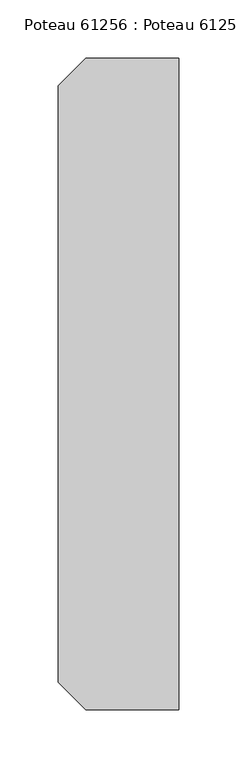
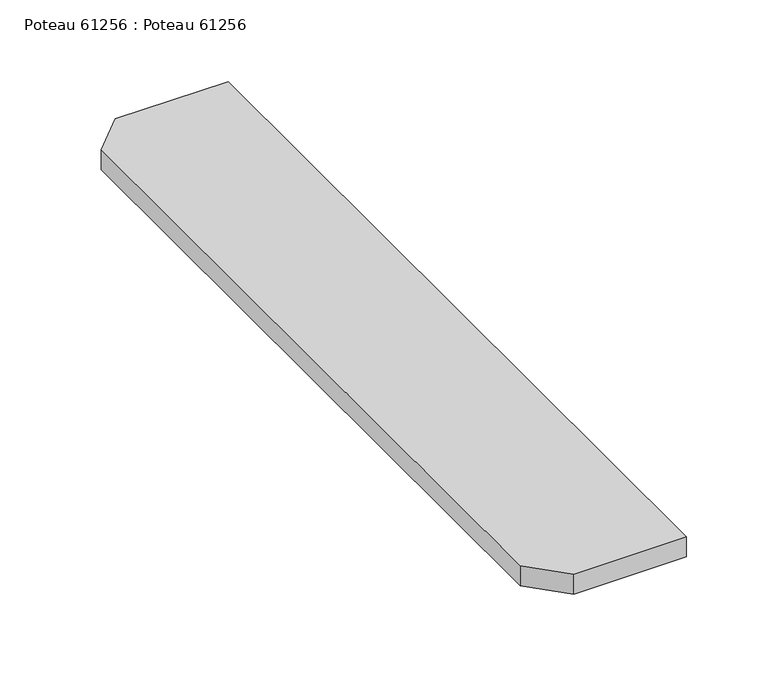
"""IFC4 building model written with IfcOpenShell, lengths in millimetres: beam geometry, Poteau 61256 : Poteau 61256."""

from ifc_helpers import new_model, si_unit, frame, origin, place, context, project, spatial, polyline, outline, extrude, source, transform, mapped, element, save


def poteau_61256_poteau_61256_5b76d843(model_context):
    return source(origin(), model_context, "Body", "SweptSolid", [
        extrude(outline(polyline([(29.9999999, -34377.0), (5.9999999, -34353.0), (5.9999999, -33839.0), (29.9999999, -33815.0), (109.9999999, -33815.0), (109.9999999, -34377.0), (29.9999999, -34377.0)])), frame((0.0, 0.0, 6830.14), z_axis=(0.0, 0.0, 1.0), x_axis=(1.0, 0.0, 0.0)), (0.0, 0.0, 1.0), 15.0),
    ])


if __name__ == "__main__":
    model = new_model("IFC4")
    model_context = context("Model", 3, world=origin())
    ifc_project = project(units=[si_unit("LENGTHUNIT", "METRE", prefix="MILLI")], contexts=[model_context])
    site = spatial("IfcSite", under=ifc_project)
    building = spatial("IfcBuilding", under=site)
    placement = place(None, origin())
    poteau_61256_poteau_61256_shape = poteau_61256_poteau_61256_5b76d843(model_context)
    element("IfcBeam", 1, ObjectType="Poteau 61256 : Poteau 61256", at=placement, inside=building, context=model_context, shape_type="MappedRepresentation", body=[
        mapped(poteau_61256_poteau_61256_shape, transform((0.0, 0.0, 0.0), x_axis=(1.0, 0.0, 0.0), y_axis=(0.0, 1.0, 0.0), z_axis=(0.0, 0.0, 1.0))),
    ])
    save(model, "model.ifc")
